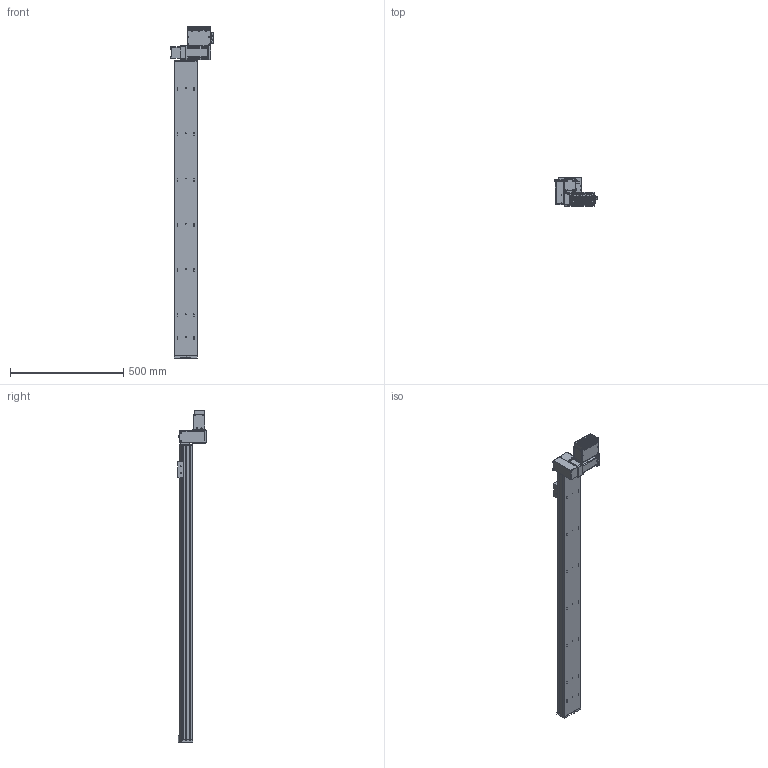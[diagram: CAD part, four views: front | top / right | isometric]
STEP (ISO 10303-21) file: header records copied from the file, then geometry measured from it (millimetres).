
FILE_DESCRIPTION (( 'STEP AP203' ), '1' );
FILE_NAME ('S10 TBN RH S1300.STEP', '2012-06-14T08:19:38', ( 'Conseil Régional Haute-Normandie' ), ( 'Conseil Régional Haute-Normandie' ), 'SwSTEP 2.0', 'SolidWorks 2010', '' );
FILE_SCHEMA (( 'CONFIG_CONTROL_DESIGN' ));
Products named in the file (29): cache t皻e axe_Default; palette tbn; cache t皻e_Default; Cvis M5 L30_Default; vis M5 L5_Default; Colonnette_3; BU45 Carte d''axe A11_5; Moteur 60BLDC90A_3; Sub D 9cts 90_X2_00B_X0__3; Radiateur profil_X2_00E9_X0_ 100x25_3; S10 TBN RH S1300; axe 1300; embout; plaque de bout s10_Default; Plaque racord_Default; renvoi LH_Default; vis M5 L12_Default; Vis M5 L16-2_Default_1; Assem1_7; T_X2_00F4_X0_le contre le moteur_5; BU41 Carte Alimentation P05_3; Couvercle_3; T_X2_00F4_X0_le fond_3; Connecteur rond D10 3cts_5; Connecteur rond D12 4cts_5; Colonnette ronde_3; T_X2_00F4_X0_le Arri_X2_00E8_X0_re_5; T_X2_00F4_X0_le lat_X2_00E9_X0_rale_5; Vis TF 3 torkx_1_1
Assembly tree (62 placements, depth 3):
  S10 TBN RH S1300
    Cvis M5 L30_Default  x2
    plaque de bout s10_Default
    cache t皻e_Default  x2
    Vis M5 L16-2_Default_1  x4
    vis M5 L5_Default  x4
    vis M5 L12_Default  x4
    axe 1300
    embout
    palette tbn
    cache t皻e axe_Default
    Assem1_7
      T_X2_00F4_X0_le fond_3
      Vis TF 3 torkx_1_1  x21
      Couvercle_3
      Colonnette_3  x2
      Connecteur rond D10 3cts_5  x2
      T_X2_00F4_X0_le lat_X2_00E9_X0_rale_5  x2
      T_X2_00F4_X0_le contre le moteur_5
      Colonnette ronde_3
      Sub D 9cts 90_X2_00B_X0__3
      BU45 Carte d''axe A11_5
      BU41 Carte Alimentation P05_3
      Moteur 60BLDC90A_3
      T_X2_00F4_X0_le Arri_X2_00E8_X0_re_5
      Connecteur rond D12 4cts_5
      Radiateur profil_X2_00E9_X0_ 100x25_3
    renvoi LH_Default
    Plaque racord_Default
Bounding box: 189.8 x 124.75 x 1466.5 mm (x, y, z)
Volume: 7580451.7 mm3; surface area: 936432.2 mm2
Topology: 61 solids, 61 shells, 2286 faces, 5673 edges, 3662 vertices
Faces by surface type: plane 1093, cylinder 976, cone 174, bspline 40, torus 3
Entity records: 47368 total; most frequent: CARTESIAN_POINT 8559, DIRECTION 7626, ORIENTED_EDGE 6942, EDGE_CURVE 3471, AXIS2_PLACEMENT_3D 2828, VERTEX_POINT 2266, LINE 1970, VECTOR 1970
